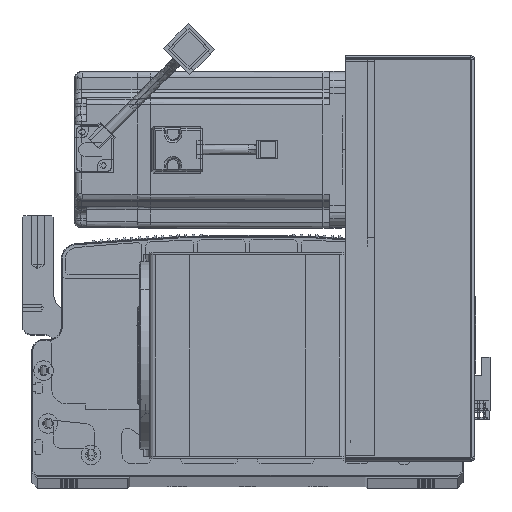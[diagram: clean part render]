
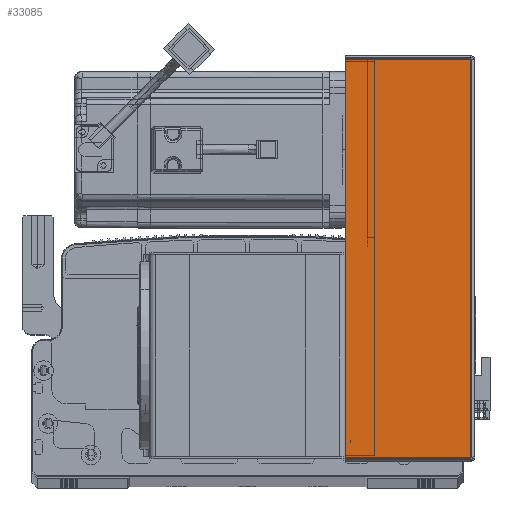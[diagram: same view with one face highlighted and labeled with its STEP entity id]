
A CAD part, top view. The second image highlights one B-rep face of the part: STEP entity #33085.
In plain terms, the highlighted planar face has unit normal (0, 0, 1) as drawn and (0, -1, 0) by its records, which use the part's own axes.
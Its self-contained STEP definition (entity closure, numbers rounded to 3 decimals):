
#389 = CARTESIAN_POINT ( 'NONE',  ( 64.5, -1.5, -0.707 ) ) ;
#6773 = DIRECTION ( 'NONE',  ( 1., 0., 0. ) ) ;
#7899 = FACE_OUTER_BOUND ( 'NONE', #66893, .T. ) ;
#9896 = CARTESIAN_POINT ( 'NONE',  ( 64.5, -1.5, 0. ) ) ;
#11838 = ORIENTED_EDGE ( 'NONE', *, *, #69907, .F. ) ;
#12266 = ORIENTED_EDGE ( 'NONE', *, *, #14982, .T. ) ;
#14982 = EDGE_CURVE ( 'NONE', #96644, #75397, #74497, .T. ) ;
#16083 = LINE ( 'NONE', #68700, #82462 ) ;
#18224 = VERTEX_POINT ( 'NONE', #389 ) ;
#31749 = CARTESIAN_POINT ( 'NONE',  ( 0.737, -1.5, -0.707 ) ) ;
#33085 = ADVANCED_FACE ( 'NONE', ( #7899 ), #54056, .F. ) ;
#33713 = EDGE_CURVE ( 'NONE', #96644, #90535, #16083, .T. ) ;
#41542 = VECTOR ( 'NONE', #73247, 1000. ) ;
#42791 = CARTESIAN_POINT ( 'NONE',  ( 0., -1.5, -0.707 ) ) ;
#43942 = ORIENTED_EDGE ( 'NONE', *, *, #90692, .T. ) ;
#46147 = CARTESIAN_POINT ( 'NONE',  ( 0., -1.5, 0. ) ) ;
#49711 = DIRECTION ( 'NONE',  ( 0., 0., 1. ) ) ;
#53740 = DIRECTION ( 'NONE',  ( 0., 1., 0. ) ) ;
#54056 = PLANE ( 'NONE',  #82382 ) ;
#56455 = CARTESIAN_POINT ( 'NONE',  ( 0.737, -1.5, -203.293 ) ) ;
#63859 = VECTOR ( 'NONE', #6773, 1000. ) ;
#66409 = ORIENTED_EDGE ( 'NONE', *, *, #33713, .F. ) ;
#66893 = EDGE_LOOP ( 'NONE', ( #66409, #12266, #43942, #11838 ) ) ;
#68700 = CARTESIAN_POINT ( 'NONE',  ( 0.737, -1.5, 0. ) ) ;
#69907 = EDGE_CURVE ( 'NONE', #90535, #18224, #84235, .T. ) ;
#71524 = CARTESIAN_POINT ( 'NONE',  ( 64.5, -1.5, -203.293 ) ) ;
#73247 = DIRECTION ( 'NONE',  ( 1., 0., 0. ) ) ;
#74497 = LINE ( 'NONE', #98173, #63859 ) ;
#75397 = VERTEX_POINT ( 'NONE', #71524 ) ;
#75647 = DIRECTION ( 'NONE',  ( 0., 0., 1. ) ) ;
#82382 = AXIS2_PLACEMENT_3D ( 'NONE', #46147, #53740, #82915 ) ;
#82462 = VECTOR ( 'NONE', #75647, 1000. ) ;
#82915 = DIRECTION ( 'NONE',  ( -1., 0., 0. ) ) ;
#84235 = LINE ( 'NONE', #42791, #41542 ) ;
#90535 = VERTEX_POINT ( 'NONE', #31749 ) ;
#90692 = EDGE_CURVE ( 'NONE', #75397, #18224, #96565, .T. ) ;
#90724 = VECTOR ( 'NONE', #49711, 1000. ) ;
#96565 = LINE ( 'NONE', #9896, #90724 ) ;
#96644 = VERTEX_POINT ( 'NONE', #56455 ) ;
#98173 = CARTESIAN_POINT ( 'NONE',  ( 0., -1.5, -203.293 ) ) ;
